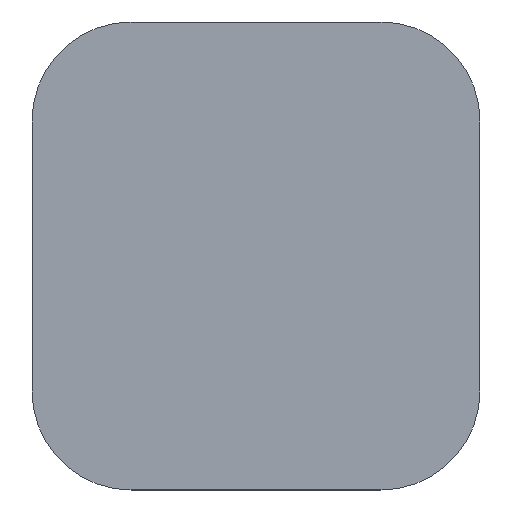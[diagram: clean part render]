
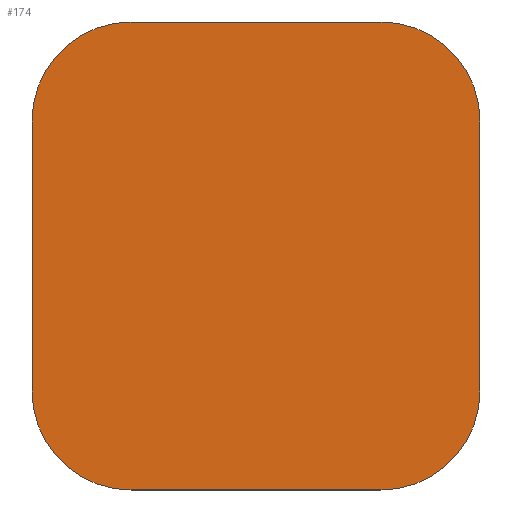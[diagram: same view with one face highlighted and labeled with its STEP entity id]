
A CAD part, top view. The second image highlights one B-rep face of the part: STEP entity #174.
In plain terms, the highlighted planar face has unit normal (0, 0, 1).
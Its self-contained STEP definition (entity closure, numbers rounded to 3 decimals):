
#15=PLANE('',#200);
#22=FACE_OUTER_BOUND('',#32,.T.);
#32=EDGE_LOOP('',(#125,#126,#127,#128,#129,#130,#131,#132));
#42=CIRCLE('',#199,9.9);
#43=CIRCLE('',#201,9.9);
#44=CIRCLE('',#202,9.9);
#45=CIRCLE('',#203,9.9);
#51=LINE('',#281,#67);
#52=LINE('',#285,#68);
#53=LINE('',#289,#69);
#54=LINE('',#292,#70);
#67=VECTOR('',#227,10.);
#68=VECTOR('',#230,10.);
#69=VECTOR('',#233,10.);
#70=VECTOR('',#236,10.);
#81=VERTEX_POINT('',#271);
#84=VERTEX_POINT('',#276);
#85=VERTEX_POINT('',#280);
#86=VERTEX_POINT('',#282);
#87=VERTEX_POINT('',#284);
#88=VERTEX_POINT('',#286);
#89=VERTEX_POINT('',#288);
#90=VERTEX_POINT('',#290);
#100=EDGE_CURVE('',#81,#84,#42,.T.);
#101=EDGE_CURVE('',#84,#85,#51,.T.);
#102=EDGE_CURVE('',#85,#86,#43,.T.);
#103=EDGE_CURVE('',#86,#87,#52,.T.);
#104=EDGE_CURVE('',#87,#88,#44,.T.);
#105=EDGE_CURVE('',#88,#89,#53,.T.);
#106=EDGE_CURVE('',#89,#90,#45,.T.);
#107=EDGE_CURVE('',#90,#81,#54,.T.);
#125=ORIENTED_EDGE('',*,*,#101,.T.);
#126=ORIENTED_EDGE('',*,*,#102,.T.);
#127=ORIENTED_EDGE('',*,*,#103,.T.);
#128=ORIENTED_EDGE('',*,*,#104,.T.);
#129=ORIENTED_EDGE('',*,*,#105,.T.);
#130=ORIENTED_EDGE('',*,*,#106,.T.);
#131=ORIENTED_EDGE('',*,*,#107,.T.);
#132=ORIENTED_EDGE('',*,*,#100,.T.);
#174=ADVANCED_FACE('',(#22),#15,.T.);
#199=AXIS2_PLACEMENT_3D('',#278,#223,#224);
#200=AXIS2_PLACEMENT_3D('',#279,#225,#226);
#201=AXIS2_PLACEMENT_3D('',#283,#228,#229);
#202=AXIS2_PLACEMENT_3D('',#287,#231,#232);
#203=AXIS2_PLACEMENT_3D('',#291,#234,#235);
#223=DIRECTION('center_axis',(0.,0.,1.));
#224=DIRECTION('ref_axis',(1.,0.,0.));
#225=DIRECTION('center_axis',(0.,0.,1.));
#226=DIRECTION('ref_axis',(1.,0.,0.));
#227=DIRECTION('',(-1.,0.,0.));
#228=DIRECTION('center_axis',(0.,0.,1.));
#229=DIRECTION('ref_axis',(1.,0.,0.));
#230=DIRECTION('',(0.,-1.,0.));
#231=DIRECTION('center_axis',(0.,0.,1.));
#232=DIRECTION('ref_axis',(1.,0.,0.));
#233=DIRECTION('',(1.,0.,0.));
#234=DIRECTION('center_axis',(0.,0.,1.));
#235=DIRECTION('ref_axis',(1.,0.,0.));
#236=DIRECTION('',(0.,1.,0.));
#271=CARTESIAN_POINT('',(22.4,51.,-0.15));
#276=CARTESIAN_POINT('',(12.5,60.9,-0.15));
#278=CARTESIAN_POINT('Origin',(12.5,51.,-0.15));
#279=CARTESIAN_POINT('Origin',(0.,37.5,-0.15));
#280=CARTESIAN_POINT('',(-12.5,60.9,-0.15));
#281=CARTESIAN_POINT('',(0.,60.9,-0.15));
#282=CARTESIAN_POINT('',(-22.4,51.,-0.15));
#283=CARTESIAN_POINT('Origin',(-12.5,51.,-0.15));
#284=CARTESIAN_POINT('',(-22.4,24.,-0.15));
#285=CARTESIAN_POINT('',(-22.4,37.5,-0.15));
#286=CARTESIAN_POINT('',(-12.5,14.1,-0.15));
#287=CARTESIAN_POINT('Origin',(-12.5,24.,-0.15));
#288=CARTESIAN_POINT('',(12.5,14.1,-0.15));
#289=CARTESIAN_POINT('',(0.,14.1,-0.15));
#290=CARTESIAN_POINT('',(22.4,24.,-0.15));
#291=CARTESIAN_POINT('Origin',(12.5,24.,-0.15));
#292=CARTESIAN_POINT('',(22.4,37.5,-0.15));
